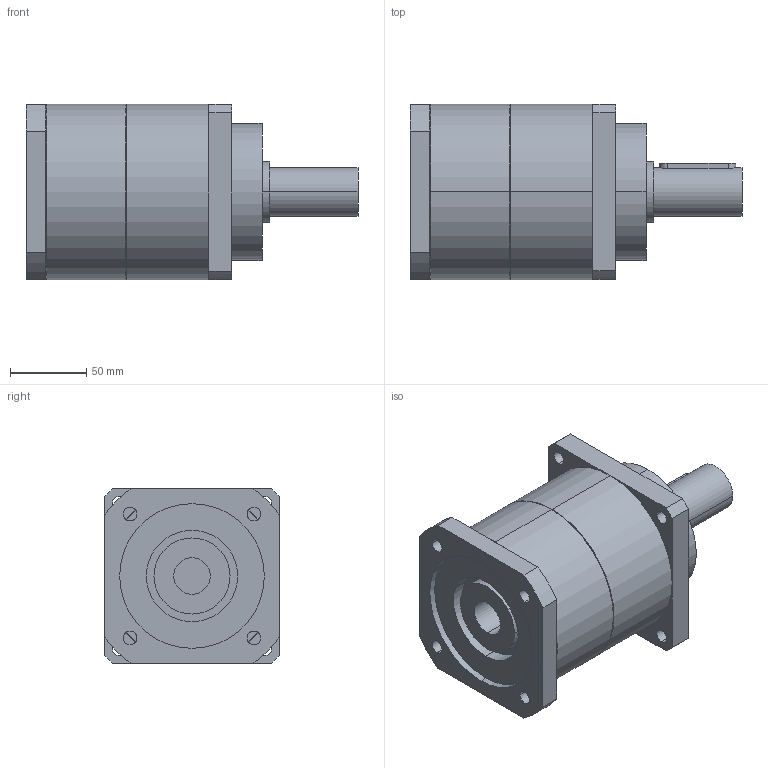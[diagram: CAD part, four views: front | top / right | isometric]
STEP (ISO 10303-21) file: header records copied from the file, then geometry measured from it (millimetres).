
FILE_DESCRIPTION(('CoCreate Modeling STEP Export'),'2;1');
FILE_NAME('GPT120_ig-3-4-5-7-10_32_B5A_24_P06.stp','2015-02-04T16:59:46',(''),(''),'CoCreate Modeling STEP processor for AP214 (Solid Model)','CoCreate Modeling 16.00C 25-Feb-2009 (C) Parametric Technology GmbH','');
FILE_SCHEMA(('AUTOMOTIVE_DESIGN { 1 0 10303 214 1 1 1 1 }'));
Length unit declared in the file: millimetre
Products named in the file (2): GPT120_ig-3-4-5-7-10_32_B5A_24_P06
Assembly tree (1 placements, depth 2):
  GPT120_ig-3-4-5-7-10_32_B5A_24_P06
    GPT120_ig-3-4-5-7-10_32_B5A_24_P06
Bounding box: 218 x 115 x 115 mm (x, y, z)
Volume: 1578006.3 mm3; surface area: 106293 mm2
Topology: 1 solids, 1 shells, 81 faces, 220 edges, 147 vertices
Faces by surface type: cylinder 46, plane 31, cone 4
Entity records: 2661 total; most frequent: CARTESIAN_POINT 772, ORIENTED_EDGE 440, DIRECTION 330, EDGE_CURVE 220, VERTEX_POINT 147, AXIS2_PLACEMENT_3D 123, EDGE_LOOP 103, VECTOR 84
